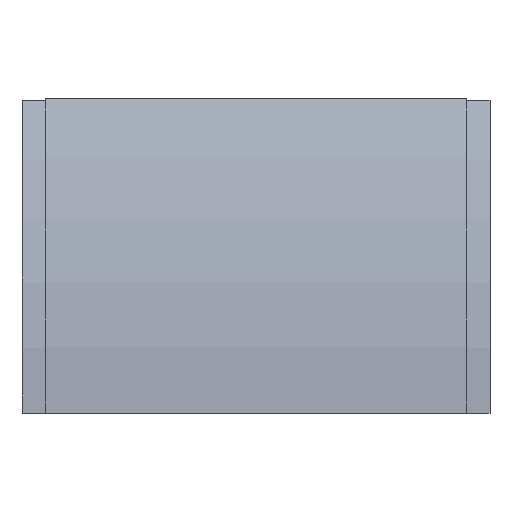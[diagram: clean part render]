
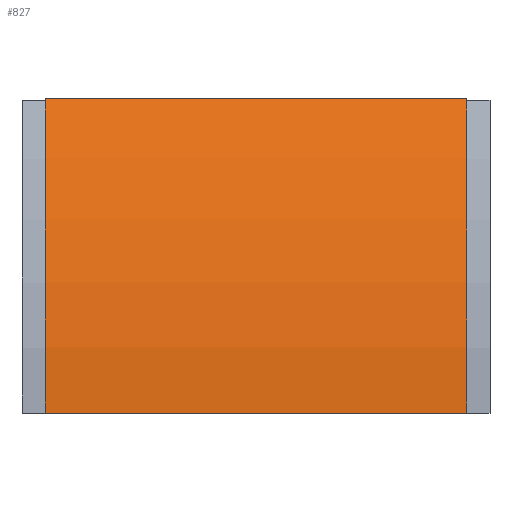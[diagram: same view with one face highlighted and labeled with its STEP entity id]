
A CAD part, front view. The second image highlights one B-rep face of the part: STEP entity #827.
In plain terms, the highlighted cylindrical face has radius 568 mm (diameter 1136 mm), a partial arc.
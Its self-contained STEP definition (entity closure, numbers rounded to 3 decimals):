
#35 = AXIS2_PLACEMENT_3D ( 'NONE', #722, #739, #797 ) ;
#54 = AXIS2_PLACEMENT_3D ( 'NONE', #685, #956, #924 ) ;
#55 = AXIS2_PLACEMENT_3D ( 'NONE', #632, #631, #630 ) ;
#84 = EDGE_CURVE ( 'NONE', #169, #162, #426, .T. ) ;
#87 = EDGE_CURVE ( 'NONE', #171, #164, #431, .T. ) ;
#88 = EDGE_CURVE ( 'NONE', #169, #171, #428, .T. ) ;
#89 = EDGE_CURVE ( 'NONE', #162, #164, #434, .T. ) ;
#162 = VERTEX_POINT ( 'NONE', #942 ) ;
#164 = VERTEX_POINT ( 'NONE', #931 ) ;
#169 = VERTEX_POINT ( 'NONE', #925 ) ;
#171 = VERTEX_POINT ( 'NONE', #912 ) ;
#214 = EDGE_LOOP ( 'NONE', ( #255, #256, #257, #258 ) ) ;
#255 = ORIENTED_EDGE ( 'NONE', *, *, #87, .F. ) ;
#256 = ORIENTED_EDGE ( 'NONE', *, *, #88, .F. ) ;
#257 = ORIENTED_EDGE ( 'NONE', *, *, #84, .T. ) ;
#258 = ORIENTED_EDGE ( 'NONE', *, *, #89, .T. ) ;
#426 = CIRCLE ( 'NONE', #55, 568. ) ;
#428 = LINE ( 'NONE', #686, #435 ) ;
#431 = CIRCLE ( 'NONE', #54, 568. ) ;
#434 = LINE ( 'NONE', #954, #437 ) ;
#435 = VECTOR ( 'NONE', #645, 1000. ) ;
#437 = VECTOR ( 'NONE', #953, 1000. ) ;
#520 = FACE_OUTER_BOUND ( 'NONE', #214, .T. ) ;
#525 = CYLINDRICAL_SURFACE ( 'NONE', #35, 568. ) ;
#630 = DIRECTION ( 'NONE',  ( 0., 0., -1. ) ) ;
#631 = DIRECTION ( 'NONE',  ( 1., 0., 0. ) ) ;
#632 = CARTESIAN_POINT ( 'NONE',  ( -190.5, 500., 0. ) ) ;
#645 = DIRECTION ( 'NONE',  ( 1., 0., 0. ) ) ;
#685 = CARTESIAN_POINT ( 'NONE',  ( 190.5, 500., 0. ) ) ;
#686 = CARTESIAN_POINT ( 'NONE',  ( -190.5, 8.098, 284. ) ) ;
#722 = CARTESIAN_POINT ( 'NONE',  ( 0., 500., 0. ) ) ;
#739 = DIRECTION ( 'NONE',  ( 1., 0., 0. ) ) ;
#797 = DIRECTION ( 'NONE',  ( 0., 0., -1. ) ) ;
#827 = ADVANCED_FACE ( 'NONE', ( #520 ), #525, .T. ) ;
#912 = CARTESIAN_POINT ( 'NONE',  ( 190.5, 8.098, 284. ) ) ;
#924 = DIRECTION ( 'NONE',  ( 0., 0., -1. ) ) ;
#925 = CARTESIAN_POINT ( 'NONE',  ( -190.5, 8.098, 284. ) ) ;
#931 = CARTESIAN_POINT ( 'NONE',  ( 190.5, -68., 0. ) ) ;
#942 = CARTESIAN_POINT ( 'NONE',  ( -190.5, -68., 0. ) ) ;
#953 = DIRECTION ( 'NONE',  ( 1., 0., 0. ) ) ;
#954 = CARTESIAN_POINT ( 'NONE',  ( -190.5, -68., 0. ) ) ;
#956 = DIRECTION ( 'NONE',  ( 1., 0., 0. ) ) ;
